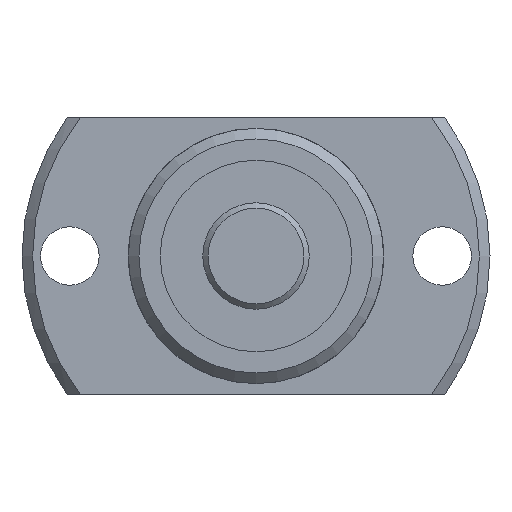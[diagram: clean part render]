
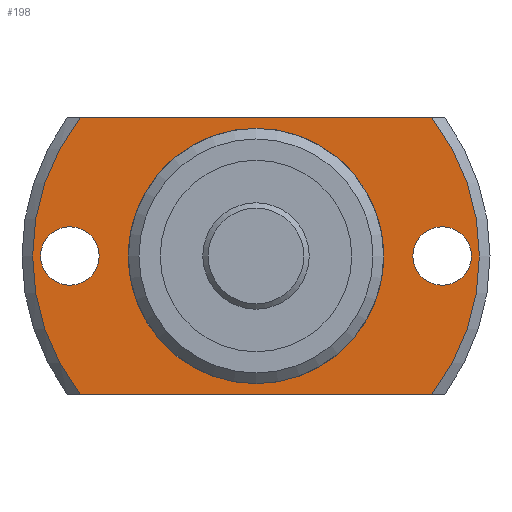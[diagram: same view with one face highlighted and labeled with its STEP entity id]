
A CAD part, left-side view. The second image highlights one B-rep face of the part: STEP entity #198.
In plain terms, the highlighted planar face has unit normal (-1, 0, 0).
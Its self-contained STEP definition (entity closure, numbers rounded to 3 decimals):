
#198 = ADVANCED_FACE( '', ( #418, #419, #420, #421 ), #422, .F. );
#418 = FACE_OUTER_BOUND( '', #682, .T. );
#419 = FACE_BOUND( '', #683, .T. );
#420 = FACE_BOUND( '', #684, .T. );
#421 = FACE_BOUND( '', #685, .T. );
#422 = PLANE( '', #686 );
#682 = EDGE_LOOP( '', ( #1084, #1085, #1086, #1087 ) );
#683 = EDGE_LOOP( '', ( #1088 ) );
#684 = EDGE_LOOP( '', ( #1089 ) );
#685 = EDGE_LOOP( '', ( #1090 ) );
#686 = AXIS2_PLACEMENT_3D( '', #1091, #1092, #1093 );
#1084 = ORIENTED_EDGE( '', *, *, #1434, .F. );
#1085 = ORIENTED_EDGE( '', *, *, #1545, .T. );
#1086 = ORIENTED_EDGE( '', *, *, #1546, .F. );
#1087 = ORIENTED_EDGE( '', *, *, #1547, .T. );
#1088 = ORIENTED_EDGE( '', *, *, #1548, .T. );
#1089 = ORIENTED_EDGE( '', *, *, #1549, .T. );
#1090 = ORIENTED_EDGE( '', *, *, #1550, .T. );
#1091 = CARTESIAN_POINT( '', ( 23., 11.75, 0. ) );
#1092 = DIRECTION( '', ( 1., 0., 0. ) );
#1093 = DIRECTION( '', ( 0., 0., -1. ) );
#1434 = EDGE_CURVE( '', #1668, #1669, #1670, .T. );
#1545 = EDGE_CURVE( '', #1668, #1840, #1841, .T. );
#1546 = EDGE_CURVE( '', #1842, #1840, #1843, .T. );
#1547 = EDGE_CURVE( '', #1842, #1669, #1844, .T. );
#1548 = EDGE_CURVE( '', #1845, #1845, #1846, .T. );
#1549 = EDGE_CURVE( '', #1847, #1847, #1848, .T. );
#1550 = EDGE_CURVE( '', #1849, #1849, #1850, .T. );
#1668 = VERTEX_POINT( '', #2002 );
#1669 = VERTEX_POINT( '', #2003 );
#1670 = CIRCLE( '', #2004, 21. );
#1840 = VERTEX_POINT( '', #2269 );
#1841 = LINE( '', #2270, #2271 );
#1842 = VERTEX_POINT( '', #2272 );
#1843 = CIRCLE( '', #2273, 21. );
#1844 = LINE( '', #2274, #2275 );
#1845 = VERTEX_POINT( '', #2276 );
#1846 = CIRCLE( '', #2277, 2.75 );
#1847 = VERTEX_POINT( '', #2278 );
#1848 = CIRCLE( '', #2279, 2.75 );
#1849 = VERTEX_POINT( '', #2280 );
#1850 = CIRCLE( '', #2281, 11.75 );
#2002 = CARTESIAN_POINT( '', ( 23., 16.492, -13. ) );
#2003 = CARTESIAN_POINT( '', ( 23., 16.492, 13. ) );
#2004 = AXIS2_PLACEMENT_3D( '', #2450, #2451, #2452 );
#2269 = CARTESIAN_POINT( '', ( 23., -16.492, -13. ) );
#2270 = CARTESIAN_POINT( '', ( 23., 11.75, -13. ) );
#2271 = VECTOR( '', #2598, 1000. );
#2272 = CARTESIAN_POINT( '', ( 23., -16.492, 13. ) );
#2273 = AXIS2_PLACEMENT_3D( '', #2599, #2600, #2601 );
#2274 = CARTESIAN_POINT( '', ( 23., 11.75, 13. ) );
#2275 = VECTOR( '', #2602, 1000. );
#2276 = CARTESIAN_POINT( '', ( 23., 17.5, -2.75 ) );
#2277 = AXIS2_PLACEMENT_3D( '', #2603, #2604, #2605 );
#2278 = CARTESIAN_POINT( '', ( 23., -17.5, -2.75 ) );
#2279 = AXIS2_PLACEMENT_3D( '', #2606, #2607, #2608 );
#2280 = CARTESIAN_POINT( '', ( 23., 0., -11.75 ) );
#2281 = AXIS2_PLACEMENT_3D( '', #2609, #2610, #2611 );
#2450 = CARTESIAN_POINT( '', ( 23., 0., 0. ) );
#2451 = DIRECTION( '', ( 1., 0., 0. ) );
#2452 = DIRECTION( '', ( 0., 0., -1. ) );
#2598 = DIRECTION( '', ( 0., -1., 0. ) );
#2599 = CARTESIAN_POINT( '', ( 23., 0., 0. ) );
#2600 = DIRECTION( '', ( 1., 0., 0. ) );
#2601 = DIRECTION( '', ( 0., 0., -1. ) );
#2602 = DIRECTION( '', ( 0., 1., 0. ) );
#2603 = CARTESIAN_POINT( '', ( 23., 17.5, 0. ) );
#2604 = DIRECTION( '', ( 1., 0., 0. ) );
#2605 = DIRECTION( '', ( 0., 0., -1. ) );
#2606 = CARTESIAN_POINT( '', ( 23., -17.5, 0. ) );
#2607 = DIRECTION( '', ( 1., 0., 0. ) );
#2608 = DIRECTION( '', ( 0., 0., -1. ) );
#2609 = CARTESIAN_POINT( '', ( 23., 0., 0. ) );
#2610 = DIRECTION( '', ( 1., 0., 0. ) );
#2611 = DIRECTION( '', ( 0., 0., -1. ) );
